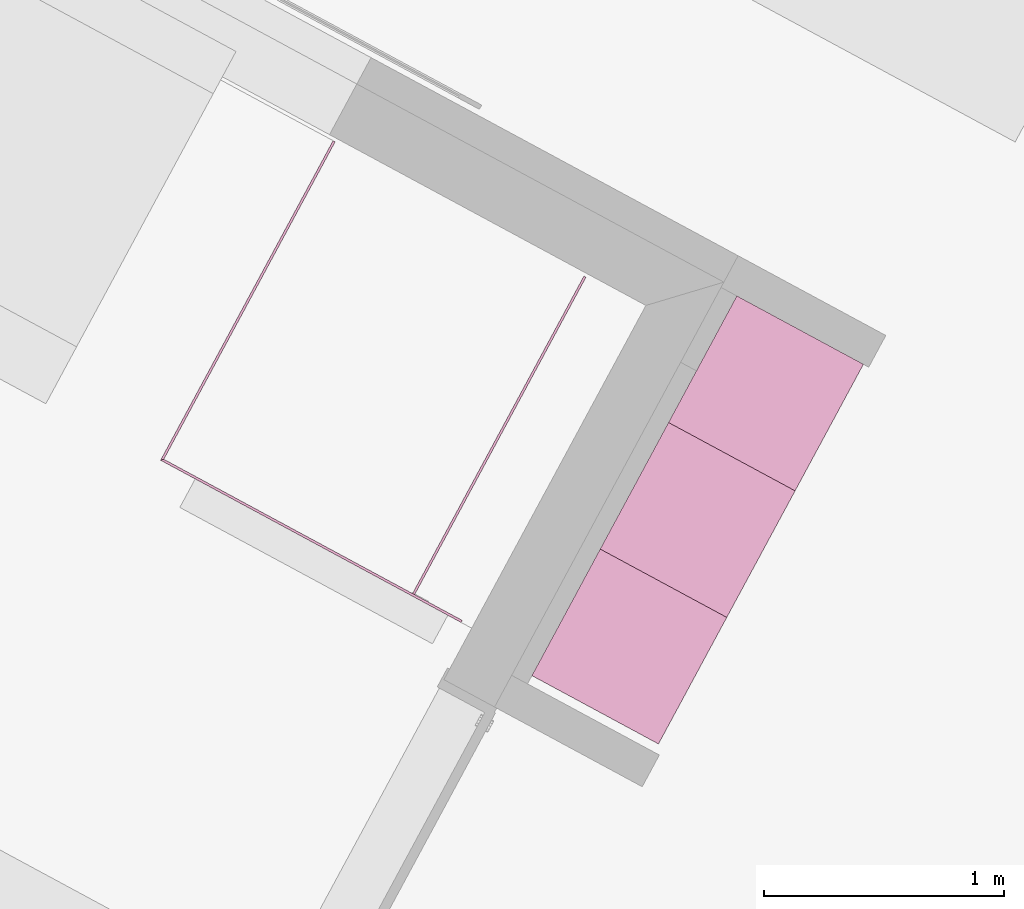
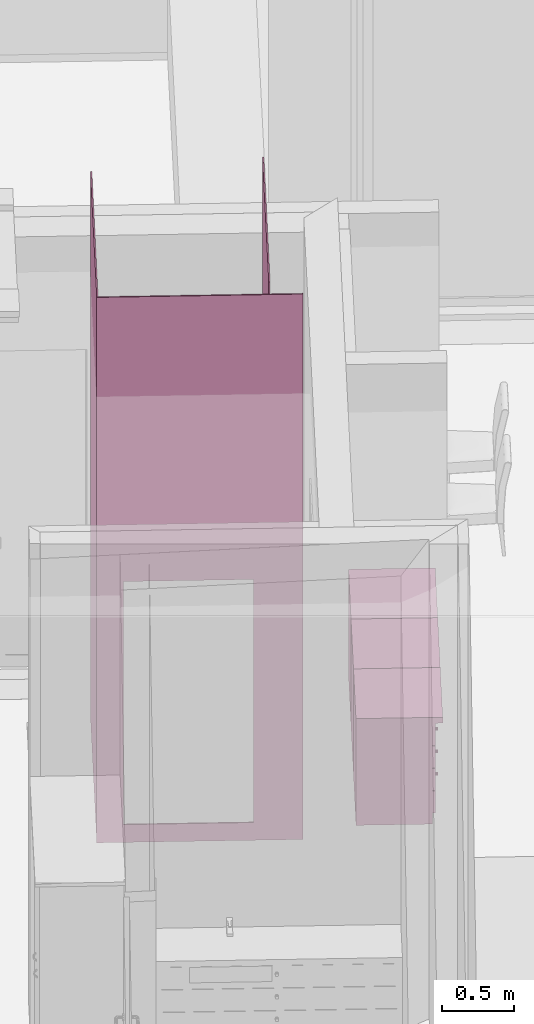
# One storey, part 23 of 36: 3 furnishings, 3 transport elements, 1 opening.
"""IFC2X3 building model written with IfcOpenShell, lengths in metres."""

from ifc_helpers import new_model, entity, si_unit, converted_unit, derived_unit, money_unit, direction, frame, origin_with_axes, origin_2d_with_axis, place, context, subcontext, project, spatial, polyline, rectangle, outline, extrude, faceted_brep, source, transform, mapped, material, type_object, element, save


model = new_model("IFC2X3")

# Units and contexts
model_context = context("Model", 3, precision=1e-05, world=origin_with_axes(), true_north=direction((0.0, 1.0)))
body_context = subcontext(model_context, "Body", "Model", "MODEL_VIEW")
ifc_project = project(units=[si_unit("LENGTHUNIT", "METRE"), si_unit("AREAUNIT", "SQUARE_METRE"), si_unit("VOLUMEUNIT", "CUBIC_METRE"), converted_unit("PLANEANGLEUNIT", "DEGREE", entity("IfcPlaneAngleMeasure", 0.0174532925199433), si_unit("PLANEANGLEUNIT", "RADIAN"), dimensions=[0, 0, 0, 0, 0, 0, 0]), money_unit("EUR"), converted_unit("TIMEUNIT", "Year", entity("IfcTimeMeasure", 31556926.0), si_unit("TIMEUNIT", "SECOND"), dimensions=[0, 0, 1, 0, 0, 0, 0]), si_unit("MASSUNIT", "GRAM", prefix="KILO"), si_unit("THERMODYNAMICTEMPERATUREUNIT", "DEGREE_CELSIUS"), si_unit("LUMINOUSINTENSITYUNIT", "LUMEN"), si_unit("ENERGYUNIT", "JOULE", prefix="MEGA"), derived_unit("THERMALCONDUCTANCEUNIT", [(si_unit("POWERUNIT", "WATT"), 1), (si_unit("LENGTHUNIT", "METRE"), -1), (si_unit("THERMODYNAMICTEMPERATUREUNIT", "KELVIN"), -1)]), derived_unit("SPECIFICHEATCAPACITYUNIT", [(si_unit("ENERGYUNIT", "JOULE"), 1), (si_unit("MASSUNIT", "GRAM", prefix="KILO"), -1), (si_unit("THERMODYNAMICTEMPERATUREUNIT", "KELVIN"), -1)]), derived_unit("MASSDENSITYUNIT", [(si_unit("MASSUNIT", "GRAM", prefix="KILO"), 1), (si_unit("VOLUMEUNIT", "CUBIC_METRE"), -1)])], contexts=[model_context])

# Site, building, storey
site_placement = place(None, frame((-3.949935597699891, 1.740105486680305, 0.0), z_axis=(0.0, 0.0, 1.0), x_axis=(0.8799804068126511, -0.475009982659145, 0.0)))
site = spatial("IfcSite", under=ifc_project, at=site_placement, Name="Gelände", CompositionType="ELEMENT")
building_placement = place(site_placement, origin_with_axes())
building = spatial("IfcBuilding", under=site, at=building_placement, Name="Gebäude", CompositionType="ELEMENT")
storey_placement = place(building_placement, origin_with_axes())
storey = spatial("IfcBuildingStorey", under=building, at=storey_placement, Name="Erdgeschoss", CompositionType="ELEMENT", Elevation=0.0)

# Furnishings
furniture_type = type_object("IfcFurnitureType", Name="Unterschrank Mehrfach-Schublade 22", AssemblyPlace="NOTDEFINED")
shared_shape = source(origin_with_axes(), body_context, "Body", "Brep", [
    faceted_brep([(-0.001500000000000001, 0.07, 0.0915), (-0.001500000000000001, 0.05, 0.0915), (-0.5985, 0.05, 0.0915), (-0.5985, 0.07, 0.0915), (-0.001500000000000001, 0.07000000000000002, 0.2785), (-0.001500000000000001, 0.05000000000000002, 0.2785), (-0.5985, 0.05000000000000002, 0.2785), (-0.5985, 0.07000000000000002, 0.2785)], [[[0, 1, 2, 3]], [[4, 5, 1, 0]], [[1, 5, 6, 2]], [[3, 2, 6, 7]], [[0, 3, 7, 4]], [[7, 6, 5, 4]]]),
    faceted_brep([(-0.2954077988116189, 0.05, 0.2039134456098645), (-0.3, 0.05, 0.203), (-0.304592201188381, 0.05, 0.2039134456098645), (-0.3084852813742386, 0.05, 0.2065147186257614), (-0.3110865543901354, 0.05, 0.2104077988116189), (-0.312, 0.05, 0.215), (-0.3110865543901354, 0.05, 0.2195922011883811), (-0.3084852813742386, 0.05, 0.2234852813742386), (-0.304592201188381, 0.05, 0.2260865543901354), (-0.3, 0.05, 0.227), (-0.2954077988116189, 0.05, 0.2260865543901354), (-0.2915147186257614, 0.05, 0.2234852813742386), (-0.2889134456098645, 0.05, 0.2195922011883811), (-0.288, 0.05, 0.215), (-0.2889134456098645, 0.05, 0.2104077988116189), (-0.2915147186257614, 0.05, 0.2065147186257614), (-0.2954077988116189, 0.025, 0.2039134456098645), (-0.3, 0.025, 0.203), (-0.3045922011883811, 0.025, 0.2039134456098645), (-0.3084852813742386, 0.025, 0.2065147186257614), (-0.3110865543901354, 0.025, 0.2104077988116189), (-0.312, 0.025, 0.215), (-0.3110865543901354, 0.025, 0.2195922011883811), (-0.3084852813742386, 0.025, 0.2234852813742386), (-0.304592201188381, 0.025, 0.2260865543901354), (-0.3, 0.025, 0.227), (-0.2954077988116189, 0.025, 0.2260865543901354), (-0.2915147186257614, 0.025, 0.2234852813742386), (-0.2889134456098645, 0.025, 0.2195922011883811), (-0.288, 0.025, 0.215), (-0.2889134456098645, 0.025, 0.2104077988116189), (-0.2915147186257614, 0.025, 0.2065147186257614)], [[[0, 1, 2, 3, 4, 5, 6, 7, 8, 9, 10, 11, 12, 13, 14, 15]], [[0, 16, 17, 1]], [[1, 17, 18, 2]], [[2, 18, 19, 3]], [[3, 19, 20, 4]], [[4, 20, 21, 5]], [[5, 21, 22, 6]], [[6, 22, 23, 7]], [[7, 23, 24, 8]], [[8, 24, 25, 9]], [[9, 25, 26, 10]], [[10, 26, 27, 11]], [[11, 27, 28, 12]], [[12, 28, 29, 13]], [[13, 29, 30, 14]], [[14, 30, 31, 15]], [[15, 31, 16, 0]], [[16, 31, 30, 29, 28, 27, 26, 25, 24, 23, 22, 21, 20, 19, 18, 17]]]),
    faceted_brep([(-0.001500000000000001, 0.07, 0.2815), (-0.001500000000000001, 0.05, 0.2815), (-0.5985, 0.05, 0.2815), (-0.5985, 0.07, 0.2815), (-0.001500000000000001, 0.07000000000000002, 0.4685), (-0.001500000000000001, 0.05000000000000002, 0.4685), (-0.5985, 0.05000000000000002, 0.4685), (-0.5985, 0.07000000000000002, 0.4685)], [[[0, 1, 2, 3]], [[4, 5, 1, 0]], [[1, 5, 6, 2]], [[3, 2, 6, 7]], [[0, 3, 7, 4]], [[7, 6, 5, 4]]]),
    faceted_brep([(-0.2954077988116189, 0.05, 0.3939134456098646), (-0.3, 0.05, 0.393), (-0.304592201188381, 0.05, 0.3939134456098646), (-0.3084852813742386, 0.05, 0.3965147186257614), (-0.3110865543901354, 0.05, 0.400407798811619), (-0.312, 0.05, 0.405), (-0.3110865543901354, 0.05, 0.4095922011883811), (-0.3084852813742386, 0.05, 0.4134852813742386), (-0.304592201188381, 0.05, 0.4160865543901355), (-0.3, 0.05, 0.417), (-0.2954077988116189, 0.05, 0.4160865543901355), (-0.2915147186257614, 0.05, 0.4134852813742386), (-0.2889134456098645, 0.05, 0.4095922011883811), (-0.288, 0.05, 0.405), (-0.2889134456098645, 0.05, 0.4004077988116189), (-0.2915147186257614, 0.05, 0.3965147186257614), (-0.2954077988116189, 0.025, 0.3939134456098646), (-0.3, 0.025, 0.393), (-0.3045922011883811, 0.025, 0.3939134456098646), (-0.3084852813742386, 0.025, 0.3965147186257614), (-0.3110865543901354, 0.025, 0.400407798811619), (-0.312, 0.025, 0.405), (-0.3110865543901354, 0.025, 0.4095922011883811), (-0.3084852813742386, 0.025, 0.4134852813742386), (-0.304592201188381, 0.025, 0.4160865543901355), (-0.3, 0.025, 0.417), (-0.2954077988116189, 0.025, 0.4160865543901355), (-0.2915147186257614, 0.025, 0.4134852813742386), (-0.2889134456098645, 0.025, 0.4095922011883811), (-0.288, 0.025, 0.405), (-0.2889134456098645, 0.025, 0.4004077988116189), (-0.2915147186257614, 0.025, 0.3965147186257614)], [[[0, 1, 2, 3, 4, 5, 6, 7, 8, 9, 10, 11, 12, 13, 14, 15]], [[0, 16, 17, 1]], [[1, 17, 18, 2]], [[2, 18, 19, 3]], [[3, 19, 20, 4]], [[4, 20, 21, 5]], [[5, 21, 22, 6]], [[6, 22, 23, 7]], [[7, 23, 24, 8]], [[8, 24, 25, 9]], [[9, 25, 26, 10]], [[10, 26, 27, 11]], [[11, 27, 28, 12]], [[12, 28, 29, 13]], [[13, 29, 30, 14]], [[14, 30, 31, 15]], [[15, 31, 16, 0]], [[16, 31, 30, 29, 28, 27, 26, 25, 24, 23, 22, 21, 20, 19, 18, 17]]]),
    faceted_brep([(-0.02, 0.07, 0.28), (-0.02, 0.07, 0.3), (-0.58, 0.07, 0.3), (-0.58, 0.07, 0.28), (-0.02, 0.58, 0.28), (-0.02, 0.58, 0.3), (-0.58, 0.58, 0.3), (-0.58, 0.58, 0.28)], [[[0, 1, 2, 3]], [[4, 5, 1, 0]], [[1, 5, 6, 2]], [[3, 2, 6, 7]], [[0, 3, 7, 4]], [[7, 6, 5, 4]]]),
    faceted_brep([(-0.001500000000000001, 0.07, 0.4715), (-0.001500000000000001, 0.05, 0.4715), (-0.5985, 0.05, 0.4715), (-0.5985, 0.07, 0.4715), (-0.001500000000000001, 0.07000000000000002, 0.6585), (-0.001500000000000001, 0.05000000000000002, 0.6585), (-0.5985, 0.05000000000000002, 0.6585), (-0.5985, 0.07000000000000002, 0.6585)], [[[0, 1, 2, 3]], [[4, 5, 1, 0]], [[1, 5, 6, 2]], [[3, 2, 6, 7]], [[0, 3, 7, 4]], [[7, 6, 5, 4]]]),
    faceted_brep([(-0.2954077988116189, 0.05, 0.5839134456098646), (-0.3, 0.05, 0.583), (-0.304592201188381, 0.05, 0.5839134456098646), (-0.3084852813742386, 0.05, 0.5865147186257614), (-0.3110865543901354, 0.05, 0.5904077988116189), (-0.312, 0.05, 0.595), (-0.3110865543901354, 0.05, 0.5995922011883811), (-0.3084852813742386, 0.05, 0.6034852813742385), (-0.304592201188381, 0.05, 0.6060865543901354), (-0.3, 0.05, 0.607), (-0.2954077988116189, 0.05, 0.6060865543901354), (-0.2915147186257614, 0.05, 0.6034852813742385), (-0.2889134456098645, 0.05, 0.5995922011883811), (-0.288, 0.05, 0.595), (-0.2889134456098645, 0.05, 0.5904077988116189), (-0.2915147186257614, 0.05, 0.5865147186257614), (-0.2954077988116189, 0.025, 0.5839134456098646), (-0.3, 0.025, 0.583), (-0.3045922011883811, 0.025, 0.5839134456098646), (-0.3084852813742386, 0.025, 0.5865147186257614), (-0.3110865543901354, 0.025, 0.5904077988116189), (-0.312, 0.025, 0.595), (-0.3110865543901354, 0.025, 0.5995922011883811), (-0.3084852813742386, 0.025, 0.6034852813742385), (-0.304592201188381, 0.025, 0.6060865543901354), (-0.3, 0.025, 0.607), (-0.2954077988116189, 0.025, 0.6060865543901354), (-0.2915147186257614, 0.025, 0.6034852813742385), (-0.2889134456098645, 0.025, 0.5995922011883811), (-0.288, 0.025, 0.595), (-0.2889134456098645, 0.025, 0.5904077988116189), (-0.2915147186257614, 0.025, 0.5865147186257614)], [[[0, 1, 2, 3, 4, 5, 6, 7, 8, 9, 10, 11, 12, 13, 14, 15]], [[0, 16, 17, 1]], [[1, 17, 18, 2]], [[2, 18, 19, 3]], [[3, 19, 20, 4]], [[4, 20, 21, 5]], [[5, 21, 22, 6]], [[6, 22, 23, 7]], [[7, 23, 24, 8]], [[8, 24, 25, 9]], [[9, 25, 26, 10]], [[10, 26, 27, 11]], [[11, 27, 28, 12]], [[12, 28, 29, 13]], [[13, 29, 30, 14]], [[14, 30, 31, 15]], [[15, 31, 16, 0]], [[16, 31, 30, 29, 28, 27, 26, 25, 24, 23, 22, 21, 20, 19, 18, 17]]]),
    faceted_brep([(-0.02, 0.07, 0.47), (-0.02, 0.07, 0.49), (-0.58, 0.07, 0.49), (-0.58, 0.07, 0.47), (-0.02, 0.58, 0.47), (-0.02, 0.58, 0.49), (-0.58, 0.58, 0.49), (-0.58, 0.58, 0.47)], [[[0, 1, 2, 3]], [[4, 5, 1, 0]], [[1, 5, 6, 2]], [[3, 2, 6, 7]], [[0, 3, 7, 4]], [[7, 6, 5, 4]]]),
    faceted_brep([(-0.001500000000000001, 0.07, 0.6615), (-0.001500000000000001, 0.05, 0.6615), (-0.5985, 0.05, 0.6615), (-0.5985, 0.07, 0.6615), (-0.001500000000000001, 0.07000000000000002, 0.8485), (-0.001500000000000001, 0.05000000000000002, 0.8485), (-0.5985, 0.05000000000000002, 0.8485), (-0.5985, 0.07000000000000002, 0.8485)], [[[0, 1, 2, 3]], [[4, 5, 1, 0]], [[1, 5, 6, 2]], [[3, 2, 6, 7]], [[0, 3, 7, 4]], [[7, 6, 5, 4]]]),
    faceted_brep([(-0.2954077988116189, 0.05, 0.7739134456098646), (-0.3, 0.05, 0.773), (-0.304592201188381, 0.05, 0.7739134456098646), (-0.3084852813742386, 0.05, 0.7765147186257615), (-0.3110865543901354, 0.05, 0.7804077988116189), (-0.312, 0.05, 0.785), (-0.3110865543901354, 0.05, 0.7895922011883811), (-0.3084852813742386, 0.05, 0.7934852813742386), (-0.304592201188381, 0.05, 0.7960865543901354), (-0.3, 0.05, 0.797), (-0.2954077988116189, 0.05, 0.7960865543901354), (-0.2915147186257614, 0.05, 0.7934852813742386), (-0.2889134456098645, 0.05, 0.7895922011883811), (-0.288, 0.05, 0.785), (-0.2889134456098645, 0.05, 0.7804077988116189), (-0.2915147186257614, 0.05, 0.7765147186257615), (-0.2954077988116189, 0.025, 0.7739134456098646), (-0.3, 0.025, 0.773), (-0.3045922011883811, 0.025, 0.7739134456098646), (-0.3084852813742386, 0.025, 0.7765147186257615), (-0.3110865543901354, 0.025, 0.7804077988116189), (-0.312, 0.025, 0.785), (-0.3110865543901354, 0.025, 0.7895922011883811), (-0.3084852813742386, 0.025, 0.7934852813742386), (-0.304592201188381, 0.025, 0.7960865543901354), (-0.3, 0.025, 0.797), (-0.2954077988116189, 0.025, 0.7960865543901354), (-0.2915147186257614, 0.025, 0.7934852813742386), (-0.2889134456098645, 0.025, 0.7895922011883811), (-0.288, 0.025, 0.785), (-0.2889134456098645, 0.025, 0.7804077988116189), (-0.2915147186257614, 0.025, 0.7765147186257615)], [[[0, 1, 2, 3, 4, 5, 6, 7, 8, 9, 10, 11, 12, 13, 14, 15]], [[0, 16, 17, 1]], [[1, 17, 18, 2]], [[2, 18, 19, 3]], [[3, 19, 20, 4]], [[4, 20, 21, 5]], [[5, 21, 22, 6]], [[6, 22, 23, 7]], [[7, 23, 24, 8]], [[8, 24, 25, 9]], [[9, 25, 26, 10]], [[10, 26, 27, 11]], [[11, 27, 28, 12]], [[12, 28, 29, 13]], [[13, 29, 30, 14]], [[14, 30, 31, 15]], [[15, 31, 16, 0]], [[16, 31, 30, 29, 28, 27, 26, 25, 24, 23, 22, 21, 20, 19, 18, 17]]]),
    faceted_brep([(-0.02, 0.07, 0.66), (-0.02, 0.07, 0.68), (-0.58, 0.07, 0.68), (-0.58, 0.07, 0.66), (-0.02, 0.58, 0.66), (-0.02, 0.58, 0.68), (-0.58, 0.58, 0.68), (-0.58, 0.58, 0.66)], [[[0, 1, 2, 3]], [[4, 5, 1, 0]], [[1, 5, 6, 2]], [[3, 2, 6, 7]], [[0, 3, 7, 4]], [[7, 6, 5, 4]]]),
    faceted_brep([(0.0, 0.07, 0.0), (0.0, 0.07, 0.09), (-0.6, 0.07, 0.09), (-0.6, 0.07, 0.0), (0.0, 0.6, 0.0), (0.0, 0.6, 0.09), (-0.6, 0.6, 0.09), (-0.6, 0.6, 0.0)], [[[0, 1, 2, 3]], [[4, 5, 1, 0]], [[1, 5, 6, 2]], [[3, 2, 6, 7]], [[0, 3, 7, 4]], [[7, 6, 5, 4]]]),
    faceted_brep([(0.0, 0.07, 0.83), (0.0, 0.07, 0.85), (-0.02, 0.07, 0.85), (-0.02, 0.07, 0.83), (0.0, 0.6, 0.83), (0.0, 0.6, 0.85), (-0.02, 0.6, 0.85), (-0.58, 0.6, 0.85), (-0.6, 0.6, 0.85), (-0.6, 0.07, 0.85), (-0.58, 0.07, 0.85), (-0.58, 0.07, 0.83), (-0.6, 0.07, 0.83), (-0.6, 0.6, 0.83), (-0.58, 0.6, 0.83), (-0.02, 0.6, 0.83)], [[[0, 1, 2, 3]], [[4, 5, 1, 0]], [[1, 5, 6, 7, 8, 9, 10, 2]], [[3, 2, 10, 11]], [[0, 3, 11, 12, 13, 14, 15, 4]], [[15, 6, 5, 4]], [[14, 7, 6, 15]], [[13, 8, 7, 14]], [[12, 9, 8, 13]], [[11, 10, 9, 12]]]),
    faceted_brep([(0.0, 0.07, 0.09), (0.0, 0.07, 0.11), (-0.02, 0.07, 0.11), (-0.02, 0.07, 0.09), (0.0, 0.6, 0.09), (0.0, 0.6, 0.11), (-0.02, 0.6, 0.11), (-0.58, 0.6, 0.11), (-0.6, 0.6, 0.11), (-0.6, 0.07, 0.11), (-0.58, 0.07, 0.11), (-0.58, 0.07, 0.09), (-0.6, 0.07, 0.09), (-0.6, 0.6, 0.09), (-0.58, 0.6, 0.09), (-0.02, 0.6, 0.09)], [[[0, 1, 2, 3]], [[4, 5, 1, 0]], [[1, 5, 6, 7, 8, 9, 10, 2]], [[3, 2, 10, 11]], [[0, 3, 11, 12, 13, 14, 15, 4]], [[15, 6, 5, 4]], [[14, 7, 6, 15]], [[13, 8, 7, 14]], [[12, 9, 8, 13]], [[11, 10, 9, 12]]]),
    faceted_brep([(0.0, 0.07, 0.11), (0.0, 0.07, 0.83), (-0.02, 0.07, 0.83), (-0.02, 0.07, 0.11), (0.0, 0.6, 0.11), (0.0, 0.6, 0.83), (-0.6, 0.6, 0.83), (-0.6, 0.07, 0.83), (-0.58, 0.07, 0.83), (-0.58, 0.58, 0.83), (-0.02, 0.58, 0.83), (-0.02, 0.58, 0.11), (-0.58, 0.58, 0.11), (-0.58, 0.07, 0.11), (-0.6, 0.07, 0.11), (-0.6, 0.6, 0.11)], [[[0, 1, 2, 3]], [[4, 5, 1, 0]], [[1, 5, 6, 7, 8, 9, 10, 2]], [[3, 2, 10, 11]], [[0, 3, 11, 12, 13, 14, 15, 4]], [[15, 6, 5, 4]], [[14, 7, 6, 15]], [[13, 8, 7, 14]], [[12, 9, 8, 13]], [[11, 10, 9, 12]]]),
    faceted_brep([(0.0, 0.0, 0.85), (0.0, 0.0, 0.9), (-0.6, 0.0, 0.9), (-0.6, 0.0, 0.85), (0.0, 0.6, 0.85), (0.0, 0.6, 0.9), (-0.6, 0.6, 0.9), (-0.6, 0.6, 0.85)], [[[0, 1, 2, 3]], [[4, 5, 1, 0]], [[1, 5, 6, 2]], [[3, 2, 6, 7]], [[0, 3, 7, 4]], [[7, 6, 5, 4]]]),
])
for number, where, z_axis, x_axis, name in (
    (1, (18.08248824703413, 9.672851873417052, 0.0), (0.0, 0.0, 1.0), (0.0, 1.0, 0.0), "Objekt-0064"),
    (2, (18.08248824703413, 10.27285187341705, 0.0), (0.0, 0.0, 1.0), (0.0, 1.0, 0.0), "Objekt-0064"),
    (3, (18.08248824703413, 10.87285187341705, 0.0), (0.0, 0.0, 1.0), (0.0, 1.0, 0.0), "Objekt-0064"),
):
    element("IfcFurnishingElement", number, at=place(storey_placement, frame(where, z_axis=z_axis, x_axis=x_axis)), inside=storey, type_object=furniture_type, Name=name, ObjectType="FURNITURE", context=body_context, shape_type="MappedRepresentation", body=[
        mapped(shared_shape, transform((0.0, 0.0, 0.0))),
    ])

# Transport element
ifc_material = material(Name="Glas, Normalglas")
transport_element_type = type_object("IfcTransportElementType", Name="Glas, Normalglas 10", PredefinedType="ELEVATOR")
transport_element_1_placement = place(storey_placement, frame((16.89157746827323, 9.12780041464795, -0.15), z_axis=(0.0, 0.0, 1.0), x_axis=(-9.806387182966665e-07, 0.9999999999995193, 0.0)))
element("IfcTransportElement", 4, at=transport_element_1_placement, inside=storey, type_object=transport_element_type, material=ifc_material, Name="Aufzug3", ObjectType="ELEVATOR", context=body_context, shape_type="SweptSolid", body=[
    extrude(outline(polyline([(0.009999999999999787, 0.0), (1.51499935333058, 0.0), (1.51499935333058, 0.009999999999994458), (0.01000000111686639, 0.00999999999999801), (0.009999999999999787, 0.0)])), origin_with_axes(), (0.0, 0.0, 1.0), 4.699),
])

# Transport element, opening
transport_element_2_placement = place(storey_placement, frame((15.6924954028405, 9.127799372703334, -0.15), z_axis=(0.0, 0.0, 1.0), x_axis=(0.9999999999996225, 8.689518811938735e-07, 0.0)))
transport_element_2 = element("IfcTransportElement", 5, at=transport_element_2_placement, inside=storey, type_object=transport_element_type, material=ifc_material, Name="Aufzug2", ObjectType="ELEVATOR", context=body_context, shape_type="SweptSolid", body=[
    extrude(outline(polyline([(0.0, 0.0), (1.424798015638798, 0.0), (1.424798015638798, 0.009999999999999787), (0.01000001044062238, 0.009999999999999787), (0.0, 0.0)])), origin_with_axes(), (0.0, 0.0, 1.0), 4.600000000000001),
])
opening_placement = place(transport_element_2_placement, frame((0.6342390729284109, 0.0, 0.15), z_axis=(0.0, 0.0, 1.0), x_axis=(1.0, 0.0, 0.0)))
element("IfcOpeningElement", 6, at=opening_placement, cuts=transport_element_2, Name="Tür-011", context=body_context, shape_type="SweptSolid", body=[
    extrude(rectangle(XDim=0.9000000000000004, YDim=2.05, at=origin_2d_with_axis()), frame((8.689756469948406e-09, 0.009999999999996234, 1.025), z_axis=(8.689518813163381e-07, 0.9999999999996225, 0.0), x_axis=(0.9999999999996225, -8.689518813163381e-07, 0.0)), (0.0, 0.0, -1.0), 0.03),
])

# Transport element
transport_element_3_placement = place(storey_placement, frame((15.69249566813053, 10.64279319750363, -0.15), z_axis=(0.0, 0.0, 1.0), x_axis=(-1.751096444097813e-07, -0.9999999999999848, 0.0)))
element("IfcTransportElement", 7, at=transport_element_3_placement, inside=storey, type_object=transport_element_type, material=ifc_material, Name="Aufzug1", ObjectType="ELEVATOR", context=body_context, shape_type="SweptSolid", body=[
    extrude(outline(polyline([(0.0, 0.0), (1.514993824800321, 0.0), (1.504993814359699, 0.01000000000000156), (0.0, 0.009999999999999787), (0.0, 0.0)])), origin_with_axes(), (0.0, 0.0, 1.0), 4.600000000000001),
])

save(model, "model.ifc")
